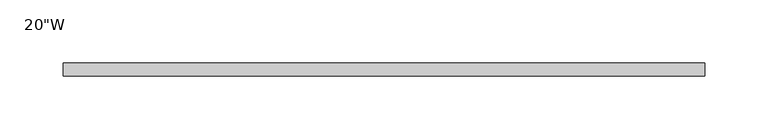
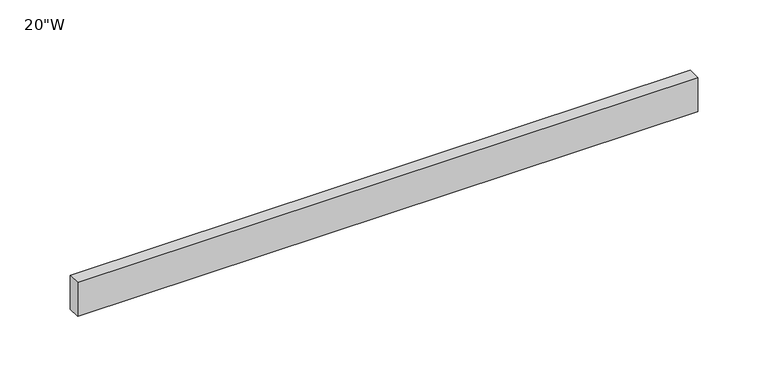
"""IFC4 building model written with IfcOpenShell, lengths in millimetres: furniture geometry."""

from ifc_helpers import new_model, si_unit, frame, origin, place, context, project, spatial, polyline, outline, extrude, source, transform, mapped, element, save


def furniture_27459807(model_context):
    return source(origin(), model_context, "Body", "SweptSolid", [
        extrude(outline(polyline([(254.0673483, 5.1181), (254.0673483, -5.1181), (-253.9326517, -5.1181), (-253.9326517, 5.1181), (254.0673483, 5.1181)])), frame((0.0, 0.0, 754.5649784), z_axis=(0.0, 0.0, 1.0), x_axis=(1.0, 0.0, 0.0)), (0.0, 0.0, 1.0), 29.4386),
    ])


if __name__ == "__main__":
    model = new_model("IFC4")
    model_context = context("Model", 3, world=origin())
    ifc_project = project(units=[si_unit("LENGTHUNIT", "METRE", prefix="MILLI")], contexts=[model_context])
    site = spatial("IfcSite", under=ifc_project)
    building = spatial("IfcBuilding", under=site)
    placement = place(None, origin())
    furniture_shape = furniture_27459807(model_context)
    element("IfcFurniture", 1, ObjectType="HermanMiller_Carts_CT782_AccessoryRailSide : 20\"W", at=placement, inside=building, context=model_context, shape_type="MappedRepresentation", body=[
        mapped(furniture_shape, transform((0.0, 0.0, 0.0), x_axis=(1.0, 0.0, 0.0), y_axis=(0.0, 1.0, 0.0), z_axis=(0.0, 0.0, 1.0))),
    ])
    save(model, "model.ifc")
